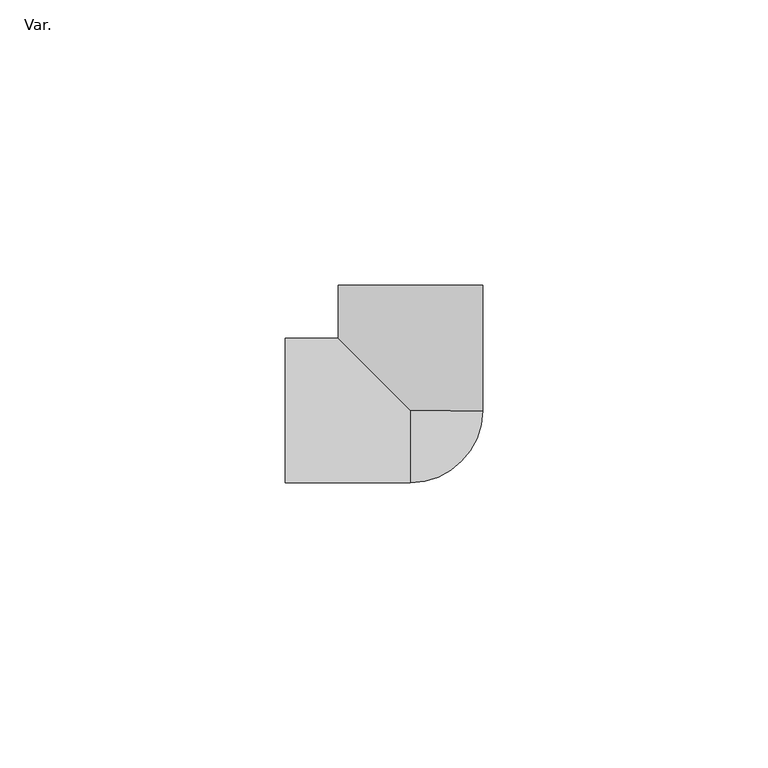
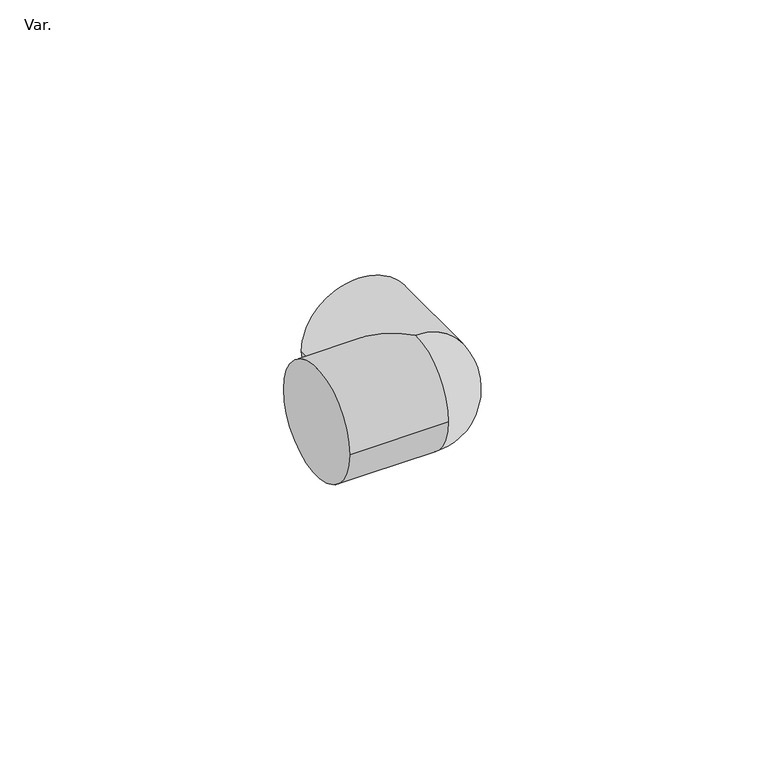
"""IFC4 building model written with IfcOpenShell, lengths in millimetres: pipe fitting geometry, AmancoWavin_Unionesdetubería_TigrisFlexCodo : Var.."""

from ifc_helpers import new_model, si_unit, point, frame, origin, place, context, project, spatial, circle_curve, ellipse_curve, trimmed, source, transform, mapped, element, save
from ifc_brep_helpers import plane_surface, cylinder_surface, revolved_surface, advanced_brep


def var_bb96817c(model_context):
    return source(origin(), model_context, "Body", "AdvancedBrep", [
        advanced_brep(
        [(12.7, 22.0, 0.0), (-12.7, 22.0, 0.0), (-12.7, 12.7, 0.0), (0.0, 0.0, 12.7), (12.7, 0.0, 0.0), (0.0, 0.0, -12.7), (-22.0, 12.7, 0.0), (-22.0, -12.7, 0.0), (0.0, -12.7, 0.0)],
        [
            (0, 1, circle_curve(frame((0.0, 22.0, 0.0), z_axis=(0.0, 1.0, 0.0), x_axis=(-1.0, 0.0, 0.0)), 12.7)),
            (1, 0, circle_curve(frame((0.0, 22.0, 0.0), z_axis=(0.0, 1.0, 0.0), x_axis=(-1.0, 0.0, 0.0)), 12.7)),
            (1, 2),
            (2, 3, ellipse_curve(frame((0.0, 0.0, 0.0), z_axis=(0.707106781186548, 0.7071067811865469, 0.0), x_axis=(0.7071067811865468, -0.7071067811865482, 0.0)), 17.9605122, 12.7)),
            (3, 4, circle_curve(frame((0.0, 0.0, 0.0), z_axis=(0.0, 1.0, 0.0), x_axis=(-1.0, 0.0, 0.0)), 12.7)),
            (4, 0),
            (4, 5, circle_curve(frame((0.0, 0.0, 0.0), z_axis=(0.0, 1.0, 0.0), x_axis=(-1.0, 0.0, 0.0)), 12.7)),
            (5, 2, ellipse_curve(frame((0.0, 0.0, 0.0), z_axis=(0.707106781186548, 0.7071067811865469, 0.0), x_axis=(0.7071067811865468, -0.7071067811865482, 0.0)), 17.9605122, 12.7)),
            (6, 7, circle_curve(frame((-22.0, 0.0, 0.0), z_axis=(-1.0, 0.0, 0.0), x_axis=(0.0, -1.0, 0.0)), 12.7)),
            (7, 6, circle_curve(frame((-22.0, 0.0, 0.0), z_axis=(-1.0, 0.0, 0.0), x_axis=(0.0, -1.0, 0.0)), 12.7)),
            (7, 8),
            (8, 3, circle_curve(frame((0.0, 0.0, 0.0), z_axis=(-1.0, 0.0, 0.0), x_axis=(0.0, -1.0, 0.0)), 12.7)),
            (2, 6),
            (5, 8, circle_curve(frame((0.0, 0.0, 0.0), z_axis=(-1.0, 0.0, 0.0), x_axis=(0.0, -1.0, 0.0)), 12.7)),
        ],
        [
            plane_surface(frame((0.0, 22.0, 0.0), z_axis=(0.0, 1.0, 0.0), x_axis=(0.0, 0.0, 1.0))),
            cylinder_surface(frame((0.0, 0.0, 0.0), z_axis=(0.0, -1.0, 0.0), x_axis=(-1.0, 0.0, 0.0)), 12.7),
            plane_surface(frame((-22.0, 0.0, 0.0), z_axis=(-1.0, 0.0, 0.0), x_axis=(0.0, 0.0, 1.0))),
            cylinder_surface(frame((0.0, 0.0, 0.0), z_axis=(1.0, 0.0, 0.0), x_axis=(0.0, -1.0, 0.0)), 12.7),
            revolved_surface(trimmed(ellipse_curve(frame((0.0, 0.0, 0.0), z_axis=(1.0, 0.0, 0.0), x_axis=(0.0, 1.0, 0.0)), 12.7, 12.7), [point((0.0, 0.0, 12.7))], [point((0.0, 0.0, -12.7))], True, "CARTESIAN"), (0.0, 0.0, -110.0832781), (0.0, 0.0, -1.0)),
        ],
        [
            (0, [[1, 2]]),
            (1, [[-2, 3, 4, 5, 6]]),
            (1, [[-1, -6, 7, 8, -3]]),
            (2, [[9, 10]]),
            (3, [[-10, 11, 12, -4, 13]]),
            (3, [[-9, -13, -8, 14, -11]]),
            (4, [[-5, -12, -14, -7]]),
        ],
    ),
    ])


if __name__ == "__main__":
    model = new_model("IFC4")
    model_context = context("Model", 3, world=origin())
    ifc_project = project(units=[si_unit("LENGTHUNIT", "METRE", prefix="MILLI")], contexts=[model_context])
    site = spatial("IfcSite", under=ifc_project)
    building = spatial("IfcBuilding", under=site)
    placement = place(None, origin())
    var_shape = var_bb96817c(model_context)
    element("IfcPipeFitting", 1, ObjectType="AmancoWavin_Unionesdetubería_TigrisFlexCodo : Var.", at=placement, inside=building, context=model_context, shape_type="MappedRepresentation", body=[
        mapped(var_shape, transform((0.0, 0.0, 0.0), x_axis=(1.0, 0.0, 0.0), y_axis=(0.0, 1.0, 0.0), z_axis=(0.0, 0.0, 1.0))),
    ])
    save(model, "model.ifc")
